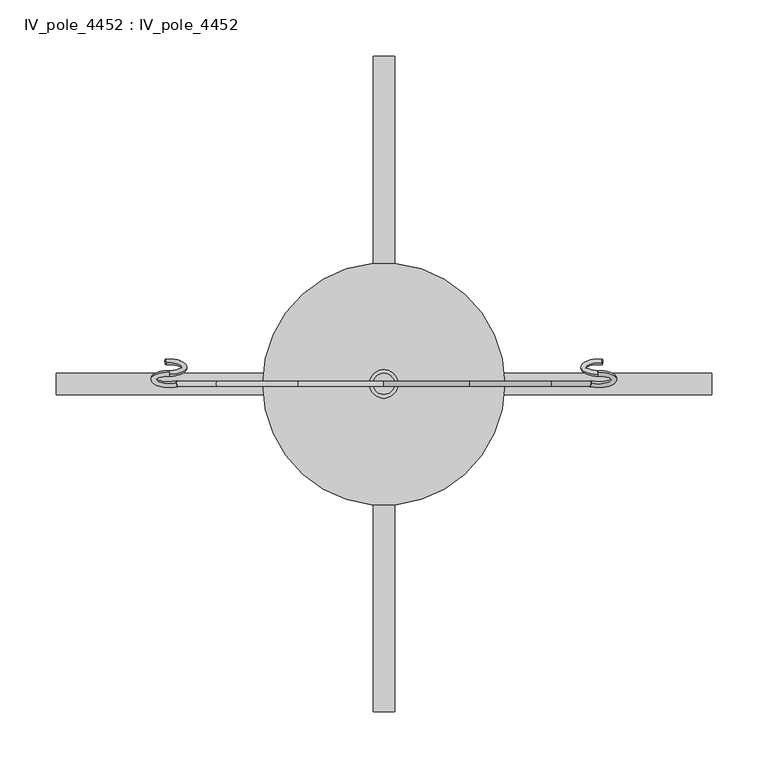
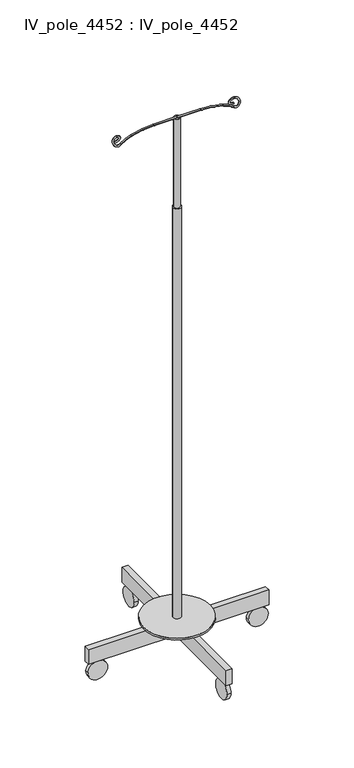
"""IFC4 building model written with IfcOpenShell, lengths in millimetres: proxy geometry, IV_pole_4452 : IV_pole_4452."""

import ifcopenshell
import ifcopenshell.guid

model = None  # the IFC model being written
_history = None  # IfcOwnerHistory: only IFC2X3 demands one
_inside = {}  # id of a spatial element -> (the spatial element, [elements in it])
_under = {}  # id of a project, library or spatial element -> (it, [spatial elements below it])
_declared = {}  # id of a project -> (the project, [libraries it declares])
_typed = {}  # id of a type object -> (the type object, [elements of that type])
_made_of = {}  # id of a material, layer set ... -> (it, [elements and type objects made of it])


def new_model(schema):
    """Start an empty IFC model of exactly this schema.

    Asked for "IFC4X3", IfcOpenShell would pick the latest addendum, in which some entities
    have other attributes; the version numbers below select the first issue.
    IFC2X3 requires an IfcOwnerHistory on every rooted entity: one is made here for all.
    """
    global model, _history
    if schema == "IFC4X3":
        model = ifcopenshell.file(schema_version=(4, 3, 0, 0))
    else:
        model = ifcopenshell.file(schema=schema)
    _inside.clear()
    _under.clear()
    _declared.clear()
    _typed.clear()
    _made_of.clear()
    _history = None
    if model.schema == "IFC2X3":
        org = make("IfcOrganization", Name="unknown")
        user = make(
            "IfcPersonAndOrganization",
            ThePerson=make("IfcPerson", FamilyName="unknown"),
            TheOrganization=org,
        )
        app = make(
            "IfcApplication",
            ApplicationDeveloper=org,
            Version="unknown",
            ApplicationFullName="unknown",
            ApplicationIdentifier="unknown",
        )
        _history = make(
            "IfcOwnerHistory",
            OwningUser=user,
            OwningApplication=app,
            ChangeAction="ADDED",
            CreationDate=0,
        )
    return model


def make(cls, **values):
    """One entity of the class cls with the attributes given. An attribute that is None is left unset."""
    return model.create_entity(
        cls, **{name: value for name, value in values.items() if value is not None}
    )


def rooted(cls, **values):
    """An entity with a GlobalId (a new one), such as an element, a storey or a relation."""
    return make(cls, GlobalId=ifcopenshell.guid.new(), OwnerHistory=_history, **values)


def si_unit(unit_type, name, prefix=None):
    """IfcSIUnit, for example si_unit("LENGTHUNIT", "METRE", prefix="MILLI")."""
    return make("IfcSIUnit", UnitType=unit_type, Prefix=prefix, Name=name)


def assignment(units):
    """IfcUnitAssignment: the units of a project."""
    return None if units is None else make("IfcUnitAssignment", Units=units)


def point(xyz):
    """IfcCartesianPoint."""
    return None if xyz is None else make("IfcCartesianPoint", Coordinates=xyz)


def direction(xyz):
    """IfcDirection."""
    return None if xyz is None else make("IfcDirection", DirectionRatios=xyz)


def frame(location, z_axis=None, x_axis=None):
    """IfcAxis2Placement3D, a coordinate frame: its origin and axes. An axis left out is left unset."""
    return make(
        "IfcAxis2Placement3D",
        Location=point(location),
        Axis=direction(z_axis),
        RefDirection=direction(x_axis),
    )


def frame_2d(location, x_axis=None):
    """IfcAxis2Placement2D, a coordinate frame in the plane: its origin and x axis."""
    return make(
        "IfcAxis2Placement2D", Location=point(location), RefDirection=direction(x_axis)
    )


def origin():
    """The frame at (0, 0, 0) with its axes left unset."""
    return frame((0.0, 0.0, 0.0))


def origin_2d():
    """The frame at (0, 0) in the plane with its x axis left unset."""
    return frame_2d((0.0, 0.0))


def place(relative_to, where):
    """IfcLocalPlacement: puts the frame where relative to a parent placement (None: the world)."""
    return make(
        "IfcLocalPlacement", PlacementRelTo=relative_to, RelativePlacement=where
    )


def context(
    kind, dimensions, precision=None, world=None, true_north=None, identifier=None
):
    """IfcGeometricRepresentationContext, for example the 3D "Model" context."""
    return make(
        "IfcGeometricRepresentationContext",
        ContextIdentifier=identifier,
        ContextType=kind,
        CoordinateSpaceDimension=dimensions,
        Precision=precision,
        WorldCoordinateSystem=world,
        TrueNorth=true_north,
    )


def project(units=None, contexts=None):
    """IfcProject with its units and contexts."""
    return rooted(
        "IfcProject",
        Name="project",
        RepresentationContexts=contexts,
        UnitsInContext=assignment(units),
    )


def spatial(cls, under=None, at=None, **own):
    """A site, building, storey or space (cls), placed at a placement, below another one or the project."""
    s = rooted(cls, ObjectPlacement=at, **own)
    if under is not None:
        _under.setdefault(under.id(), (under, []))[1].append(s)
    return s


def polyline(points):
    """IfcPolyline through the points."""
    return make("IfcPolyline", Points=[point(p) for p in points])


def circle_curve(where, radius):
    """IfcCircle in the frame where."""
    return make("IfcCircle", Position=where, Radius=radius)


def ellipse_curve(where, semi_axis1, semi_axis2):
    """IfcEllipse in the frame where."""
    return make(
        "IfcEllipse", Position=where, SemiAxis1=semi_axis1, SemiAxis2=semi_axis2
    )


def trimmed(basis, trim1, trim2, sense, master):
    """IfcTrimmedCurve: the piece of a basis curve between two trims."""
    return make(
        "IfcTrimmedCurve",
        BasisCurve=basis,
        Trim1=trim1,
        Trim2=trim2,
        SenseAgreement=sense,
        MasterRepresentation=master,
    )


def segment(curve, same_sense, transition):
    """IfcCompositeCurveSegment."""
    return make(
        "IfcCompositeCurveSegment",
        Transition=transition,
        SameSense=same_sense,
        ParentCurve=curve,
    )


def composite_curve(segments, self_intersect=None):
    """IfcCompositeCurve: segments joined end to end."""
    return make("IfcCompositeCurve", Segments=segments, SelfIntersect=self_intersect)


def outline(outer, holes=None, kind="AREA"):
    """IfcArbitraryClosedProfileDef: a profile drawn as a closed curve; with holes, ...WithVoids."""
    if holes is None:
        return make("IfcArbitraryClosedProfileDef", ProfileType=kind, OuterCurve=outer)
    return make(
        "IfcArbitraryProfileDefWithVoids",
        ProfileType=kind,
        OuterCurve=outer,
        InnerCurves=holes,
    )


def extrude(swept, where, along, depth):
    """IfcExtrudedAreaSolid: the profile swept, set in the frame where, extruded along a direction by depth."""
    return make(
        "IfcExtrudedAreaSolid",
        SweptArea=swept,
        Position=where,
        ExtrudedDirection=direction(along),
        Depth=depth,
    )


def shape(context_of_items, identifier, shape_type, items):
    """IfcShapeRepresentation: the items that make up one representation, for example the "Body"."""
    return make(
        "IfcShapeRepresentation",
        ContextOfItems=context_of_items,
        RepresentationIdentifier=identifier,
        RepresentationType=shape_type,
        Items=items,
    )


def source(mapping_origin, context_of_items, identifier, shape_type, items):
    """IfcRepresentationMap: a shape defined once, which mapped items show again and again."""
    return make(
        "IfcRepresentationMap",
        MappingOrigin=mapping_origin,
        MappedRepresentation=shape(context_of_items, identifier, shape_type, items),
    )


def transform(
    local_origin,
    x_axis=None,
    y_axis=None,
    z_axis=None,
    scale=None,
    scale2=None,
    scale3=None,
    uniform=True,
):
    """IfcCartesianTransformationOperator3D, or its non-uniform kind. x_axis, y_axis, z_axis: its Axis1, 2, 3."""
    if uniform:
        return make(
            "IfcCartesianTransformationOperator3D",
            Axis1=direction(x_axis),
            Axis2=direction(y_axis),
            LocalOrigin=point(local_origin),
            Scale=scale,
            Axis3=direction(z_axis),
        )
    return make(
        "IfcCartesianTransformationOperator3DnonUniform",
        Axis1=direction(x_axis),
        Axis2=direction(y_axis),
        LocalOrigin=point(local_origin),
        Scale=scale,
        Axis3=direction(z_axis),
        Scale2=scale2,
        Scale3=scale3,
    )


def mapped(mapping_source, mapping_target):
    """IfcMappedItem: shows the shape of a source again, moved by a transform."""
    return make(
        "IfcMappedItem", MappingSource=mapping_source, MappingTarget=mapping_target
    )


def made_of(thing, what):
    """Note that an element or type object is made of a material, layer set ...; save() writes the relation."""
    if what is not None:
        _made_of.setdefault(what.id(), (what, []))[1].append(thing)
    return thing


def element(
    cls,
    number,
    at=None,
    inside=None,
    cuts=None,
    type_object=None,
    material=None,
    context=None,
    identifier="Body",
    shape_type=None,
    held_by="IfcProductDefinitionShape",
    body=None,
    shapes=None,
    **own,
):
    """One element of the class cls, such as IfcWall. Its Tag is "e" and its number.

    at: its placement. inside: the storey or other place that contains it. cuts: it is an
    opening in that element (IfcRelVoidsElement). A single representation is given by context,
    identifier, shape_type and body (its items); several are given by shapes. held_by: the class
    of the entity that holds the representations. save() writes the other relations.
    """
    e = rooted(cls, Tag="e%d" % number, ObjectPlacement=at, **own)
    if body is not None:
        shapes = [shape(context, identifier, shape_type, body)]
    if shapes is not None:
        e.Representation = make(held_by, Representations=shapes)
    if inside is not None:
        _inside.setdefault(inside.id(), (inside, []))[1].append(e)
    if cuts is not None:
        rooted(
            "IfcRelVoidsElement", RelatingBuildingElement=cuts, RelatedOpeningElement=e
        )
    if type_object is not None:
        _typed.setdefault(type_object.id(), (type_object, []))[1].append(e)
    return made_of(e, material)


def aggregate(whole, parts):
    """IfcRelAggregates: a whole, such as a stair, and the parts it consists of."""
    return rooted("IfcRelAggregates", RelatingObject=whole, RelatedObjects=parts)


def save(model, path):
    """Write the relations noted so far, then the file.

    IfcRelAggregates (storeys below a building ...), IfcRelContainedInSpatialStructure (elements
    in a storey), IfcRelDefinesByType, IfcRelAssociatesMaterial and IfcRelDeclares: one each for
    every whole, place, type object, material and project.
    """
    for whole, parts in _under.values():
        aggregate(whole, parts)
    for where, things in _inside.values():
        rooted(
            "IfcRelContainedInSpatialStructure",
            RelatedElements=things,
            RelatingStructure=where,
        )
    for kind, things in _typed.values():
        rooted("IfcRelDefinesByType", RelatedObjects=things, RelatingType=kind)
    for what, things in _made_of.values():
        rooted("IfcRelAssociatesMaterial", RelatedObjects=things, RelatingMaterial=what)
    for by, libraries in _declared.values():
        rooted("IfcRelDeclares", RelatingContext=by, RelatedDefinitions=libraries)
    model.write(path)


def plane_surface(at):
    """IfcPlane: the flat surface through the origin of the frame at, square to its z axis."""
    return make("IfcPlane", Position=at)


def cylinder_surface(at, radius):
    """IfcCylindricalSurface: all points at the distance radius from the z axis of the frame at."""
    return make("IfcCylindricalSurface", Position=at, Radius=radius)


def revolved_surface(curve, axis_point, axis_direction):
    """IfcSurfaceOfRevolution: the curve turned about the line through axis_point along axis_direction."""
    return make(
        "IfcSurfaceOfRevolution",
        SweptCurve=make("IfcArbitraryOpenProfileDef", ProfileType="CURVE", Curve=curve),
        AxisPosition=make("IfcAxis1Placement", Location=point(axis_point), Axis=direction(axis_direction)),
    )


def advanced_brep(points, edges, surfaces, faces):
    """IfcAdvancedBrep: a solid bounded by faces that lie on surfaces and meet in shared edges.

    An edge is (start, end): straight between two places in points (the first is 0);
    or (start, end, curve); or (start, end, curve, False) where it runs against its curve.
    A face is (place in surfaces, loops), or (place, loops, False) where it looks against
    its surface's normal. A loop lists edges by number (the first is 1), with a minus sign
    where the edge is run from its end to its start. The first loop is the outer one.
    """
    corners = [point(p) for p in points]
    vertices = [make("IfcVertexPoint", VertexGeometry=c) for c in corners]
    made = []
    for start, end, *more in edges:
        made.append(
            make(
                "IfcEdgeCurve",
                EdgeStart=vertices[start],
                EdgeEnd=vertices[end],
                EdgeGeometry=more[0] if more else make("IfcPolyline", Points=[corners[start], corners[end]]),
                SameSense=more[1] if len(more) > 1 else True,
            )
        )
    hull = []
    for where, loops, *sense in faces:
        bounds = []
        for j, loop in enumerate(loops):
            ring = [make("IfcOrientedEdge", EdgeElement=made[abs(k) - 1], Orientation=k > 0) for k in loop]
            bounds.append(
                make(
                    "IfcFaceOuterBound" if j == 0 else "IfcFaceBound",
                    Bound=make("IfcEdgeLoop", EdgeList=ring),
                    Orientation=True,
                )
            )
        hull.append(make("IfcAdvancedFace", Bounds=bounds, FaceSurface=surfaces[where], SameSense=sense[0] if sense else True))
    return make("IfcAdvancedBrep", Outer=make("IfcClosedShell", CfsFaces=hull))


def iv_pole_4452_iv_pole_4452_920e618b(model_context):
    return source(origin(), model_context, "Body", "SolidModel", [
        advanced_brep(
        [(190.9347507, 10.2093536, 1821.1070053), (190.6012044, 8.4296705, 1825.5118755), (194.088964, 18.6167968, 1800.297853), (195.0778381, 20.3619785, 1795.9783767)],
        [
            (0, 1, circle_curve(frame((190.7679775, 9.319512, 1823.3094404), z_axis=(0.9975444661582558, -0.02623593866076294, 0.06493622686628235), x_axis=(-0.07003597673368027, -0.37368673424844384, 0.9249071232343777)), 2.38125)),
            (1, 0, circle_curve(frame((190.7679775, 9.319512, 1823.3094404), z_axis=(0.9975444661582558, -0.02623593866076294, 0.06493622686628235), x_axis=(-0.07003597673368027, -0.37368673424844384, 0.9249071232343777)), 2.38125)),
            (2, 3, circle_curve(frame((194.5834011, 19.4893877, 1798.1381148), z_axis=(0.9782058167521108, -0.07778242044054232, 0.19251824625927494), x_axis=(0.2076376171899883, 0.36644234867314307, -0.9069766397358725)), 2.38125)),
            (3, 2, circle_curve(frame((194.5834011, 19.4893877, 1798.1381148), z_axis=(0.9782058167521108, -0.07778242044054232, 0.19251824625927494), x_axis=(0.2076376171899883, 0.36644234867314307, -0.9069766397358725)), 2.38125)),
            (3, 1, circle_curve(frame((191.7303194, 14.4542212, 1810.6005891), z_axis=(0.0, 0.9271838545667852, 0.3746065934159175), x_axis=(-0.07003597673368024, -0.373686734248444, 0.9249071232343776)), 16.1219283)),
            (0, 2, circle_curve(frame((191.7303194, 14.4542212, 1810.6005891), z_axis=(0.0, -0.9271838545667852, -0.3746065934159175), x_axis=(-0.07003597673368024, -0.373686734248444, 0.9249071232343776)), 11.3594283)),
        ],
        [
            plane_surface(frame((190.7679775, 9.319512, 1823.3094404), z_axis=(0.9975444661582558, -0.02623593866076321, 0.06493622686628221), x_axis=(0.0, -0.9271838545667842, -0.37460659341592))),
            plane_surface(frame((194.5834011, 19.4893877, 1798.1381148), z_axis=(0.9782058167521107, -0.07778242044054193, 0.19251824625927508), x_axis=(0.0, -0.9271838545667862, -0.37460659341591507))),
            revolved_surface(trimmed(ellipse_curve(frame((190.7679775, 9.319512, 1823.3094404), z_axis=(0.9975444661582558, -0.02623593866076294, 0.06493622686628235), x_axis=(-0.07003597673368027, -0.37368673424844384, 0.9249071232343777)), 2.38125, 2.38125), [point((190.9347507, 10.2093536, 1821.1070053))], [point((190.6012044, 8.4296705, 1825.5118755))], True, "CARTESIAN"), (191.7303194, 14.4542212, 1810.6005891), (0.0, -0.9271838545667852, -0.3746065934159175)),
            revolved_surface(trimmed(ellipse_curve(frame((190.7679775, 9.319512, 1823.3094404), z_axis=(0.9975444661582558, -0.02623593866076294, 0.06493622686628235), x_axis=(-0.07003597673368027, -0.37368673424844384, 0.9249071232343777)), 2.38125, 2.38125), [point((190.6012044, 8.4296705, 1825.5118755))], [point((190.9347507, 10.2093536, 1821.1070053))], True, "CARTESIAN"), (191.7303194, 14.4542212, 1810.6005891), (0.0, -0.9271838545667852, -0.3746065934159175)),
        ],
        [
            (0, [[1, 2]]),
            (1, [[3, 4]]),
            (2, [[5, -1, 6, -4]]),
            (3, [[-6, -2, -5, -3]]),
        ],
    ),
        advanced_brep(
        [(184.9485092, 1.0140853, 1802.7073737), (182.0339267, -0.396875, 1799.2151243), (190.8932431, 8.4215947, 1821.0416028), (190.5387861, 10.2007105, 1825.4450689)],
        [
            (0, 1, circle_curve(frame((183.491218, 0.3086052, 1800.961249), z_axis=(-0.7908687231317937, 0.229253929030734, 0.5674233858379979), x_axis=(-0.6119858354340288, -0.2962646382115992, -0.7332807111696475)), 2.38125)),
            (1, 0, circle_curve(frame((183.491218, 0.3086052, 1800.961249), z_axis=(-0.7908687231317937, 0.229253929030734, 0.5674233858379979), x_axis=(-0.6119858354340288, -0.2962646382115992, -0.7332807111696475)), 2.38125)),
            (2, 3, circle_curve(frame((190.7160146, 9.3111526, 1823.2433358), z_axis=(-0.997226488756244, -0.027880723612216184, -0.069007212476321), x_axis=(-0.07442667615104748, 0.37356761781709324, 0.9246122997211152)), 2.38125)),
            (3, 2, circle_curve(frame((190.7160146, 9.3111526, 1823.2433358), z_axis=(-0.997226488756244, -0.027880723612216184, -0.069007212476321), x_axis=(-0.07442667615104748, 0.37356761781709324, 0.9246122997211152)), 2.38125)),
            (3, 1, circle_curve(frame((191.7163094, 4.2904028, 1810.8165438), z_axis=(0.0, 0.9271838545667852, -0.37460659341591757), x_axis=(-0.6119858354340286, -0.2962646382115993, -0.7332807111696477)), 15.8212529)),
            (0, 2, circle_curve(frame((191.7163094, 4.2904028, 1810.8165438), z_axis=(0.0, -0.9271838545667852, 0.37460659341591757), x_axis=(-0.6119858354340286, -0.2962646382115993, -0.7332807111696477)), 11.0587529)),
        ],
        [
            plane_surface(frame((183.491218, 0.1249649, 1801.0354445), z_axis=(-0.790868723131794, 0.2292539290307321, 0.5674233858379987), x_axis=(0.0, -0.9271838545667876, 0.37460659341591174))),
            plane_surface(frame((190.7160146, 9.1275123, 1823.3175313), z_axis=(-0.9972264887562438, -0.027880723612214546, -0.06900721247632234), x_axis=(0.0, -0.9271838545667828, 0.37460659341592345))),
            revolved_surface(trimmed(ellipse_curve(frame((183.491218, 0.3086052, 1800.961249), z_axis=(-0.7908687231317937, 0.229253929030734, 0.5674233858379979), x_axis=(-0.6119858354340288, -0.2962646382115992, -0.7332807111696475)), 2.38125, 2.38125), [point((184.9485092, 1.0140853, 1802.7073737))], [point((182.0339267, -0.396875, 1799.2151243))], True, "CARTESIAN"), (191.7163094, 4.1067625, 1810.8907393), (0.0, -0.9271838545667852, 0.37460659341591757)),
            revolved_surface(trimmed(ellipse_curve(frame((183.491218, 0.3086052, 1800.961249), z_axis=(-0.7908687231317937, 0.229253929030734, 0.5674233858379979), x_axis=(-0.6119858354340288, -0.2962646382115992, -0.7332807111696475)), 2.38125, 2.38125), [point((182.0339267, -0.396875, 1799.2151243))], [point((184.9485092, 1.0140853, 1802.7073737))], True, "CARTESIAN"), (191.7163094, 4.1067625, 1810.8907393), (0.0, -0.9271838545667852, 0.37460659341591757)),
        ],
        [
            (0, [[1, 2]]),
            (1, [[3, 4]]),
            (2, [[5, -1, 6, -4]]),
            (3, [[-6, -2, -5, -3]]),
        ],
    ),
        advanced_brep(
        [(0.0, -2.38125, 1828.8), (0.0, 2.38125, 1828.8), (76.2, -2.38125, 1828.8), (76.2, 2.38125, 1828.8), (148.5209113, 2.38125, 1818.3935308), (148.5209113, -2.38125, 1818.3935308), (183.8556818, -2.38125, 1800.7261455), (183.8556818, 2.38125, 1800.7261455)],
        [
            (0, 1, circle_curve(frame((0.0, 0.0, 1828.8), z_axis=(-1.0, 0.0, 0.0), x_axis=(0.0, 1.0, 0.0)), 2.38125)),
            (1, 0, circle_curve(frame((0.0, 0.0, 1828.8), z_axis=(-1.0, 0.0, 0.0), x_axis=(0.0, 1.0, 0.0)), 2.38125)),
            (0, 2),
            (2, 3, circle_curve(frame((76.2, 0.0, 1828.8), z_axis=(-1.0, 0.0, 0.0), x_axis=(0.0, 1.0, 0.0)), 2.38125)),
            (3, 1),
            (3, 2, circle_curve(frame((76.2, 0.0, 1828.8), z_axis=(-1.0, 0.0, 0.0), x_axis=(0.0, 1.0, 0.0)), 2.38125)),
            (4, 3, circle_curve(frame((76.2, 2.38125, 1572.2956706), z_axis=(0.0, -1.0, 0.0), x_axis=(0.0, 0.0, 1.0)), 256.5043294)),
            (2, 5, circle_curve(frame((76.2, -2.38125, 1572.2956706), z_axis=(0.0, 1.0, 0.0), x_axis=(0.0, 0.0, 1.0)), 256.5043294)),
            (5, 4, circle_curve(frame((148.5209113, 0.0, 1818.3935308), z_axis=(-0.9594296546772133, 0.0, 0.281948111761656), x_axis=(0.0, 1.0, 0.0)), 2.38125)),
            (4, 5, circle_curve(frame((148.5209113, 0.0, 1818.3935308), z_axis=(-0.9594296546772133, 0.0, 0.281948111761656), x_axis=(0.0, 1.0, 0.0)), 2.38125)),
            (6, 7, circle_curve(frame((183.8556818, 0.0, 1800.7261455), z_axis=(0.8012162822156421, 0.0, -0.5983748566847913), x_axis=(0.0, 1.0, 0.0)), 2.38125)),
            (7, 6, circle_curve(frame((183.8556818, 0.0, 1800.7261455), z_axis=(0.8012162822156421, 0.0, -0.5983748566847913), x_axis=(0.0, 1.0, 0.0)), 2.38125)),
            (7, 4, circle_curve(frame((117.036304, 2.38125, 1711.255853), z_axis=(0.0, -1.0, 0.0), x_axis=(0.28194811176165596, 0.0, 0.9594296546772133)), 111.6680908)),
            (5, 6, circle_curve(frame((117.036304, -2.38125, 1711.255853), z_axis=(0.0, 1.0, 0.0), x_axis=(0.28194811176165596, 0.0, 0.9594296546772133)), 111.6680908)),
        ],
        [
            plane_surface(frame((0.0, 0.0, 1828.8), z_axis=(-1.0, 0.0, 0.0), x_axis=(0.0, -1.0, 0.0))),
            cylinder_surface(frame((0.0, 0.0, 1828.8), z_axis=(-1.0, 0.0, 0.0), x_axis=(0.0, 1.0, 0.0)), 2.38125),
            revolved_surface(trimmed(ellipse_curve(frame((76.2, 0.0, 1828.8), z_axis=(-1.0, 0.0, 0.0), x_axis=(0.0, 1.0, 0.0)), 2.38125, 2.38125), [point((76.2, -2.38125, 1828.8))], [point((76.2, 2.38125, 1828.8))], True, "CARTESIAN"), (76.2, 0.0, 1572.2956706), (0.0, 1.0, 0.0)),
            revolved_surface(trimmed(ellipse_curve(frame((76.2, 0.0, 1828.8), z_axis=(-1.0, 0.0, 0.0), x_axis=(0.0, 1.0, 0.0)), 2.38125, 2.38125), [point((76.2, 2.38125, 1828.8))], [point((76.2, -2.38125, 1828.8))], True, "CARTESIAN"), (76.2, 0.0, 1572.2956706), (0.0, 1.0, 0.0)),
            plane_surface(frame((183.8556818, 0.0, 1800.7261455), z_axis=(0.8012162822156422, 0.0, -0.5983748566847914), x_axis=(0.0, -1.0, 0.0))),
            revolved_surface(trimmed(ellipse_curve(frame((148.5209113, 0.0, 1818.3935308), z_axis=(-0.9594296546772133, 0.0, 0.281948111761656), x_axis=(0.0, 1.0, 0.0)), 2.38125, 2.38125), [point((148.5209113, -2.38125, 1818.3935308))], [point((148.5209113, 2.38125, 1818.3935308))], True, "CARTESIAN"), (117.036304, 0.0, 1711.255853), (0.0, 1.0, 0.0)),
            revolved_surface(trimmed(ellipse_curve(frame((148.5209113, 0.0, 1818.3935308), z_axis=(-0.9594296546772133, 0.0, 0.281948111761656), x_axis=(0.0, 1.0, 0.0)), 2.38125, 2.38125), [point((148.5209113, 2.38125, 1818.3935308))], [point((148.5209113, -2.38125, 1818.3935308))], True, "CARTESIAN"), (117.036304, 0.0, 1711.255853), (0.0, 1.0, 0.0)),
        ],
        [
            (0, [[1, 2]]),
            (1, [[-1, 3, 4, 5]]),
            (1, [[-2, -5, 6, -3]]),
            (2, [[7, -4, 8, 9]]),
            (3, [[-8, -6, -7, 10]]),
            (4, [[11, 12]]),
            (5, [[13, -9, 14, -12]]),
            (6, [[-14, -10, -13, -11]]),
        ],
    ),
        advanced_brep(
        [(-190.9347507, 10.2093536, 1821.1070053), (-190.6012044, 8.4296705, 1825.5118755), (-194.088964, 18.6167968, 1800.297853), (-195.0778381, 20.3619785, 1795.9783767)],
        [
            (0, 1, circle_curve(frame((-190.7679775, 9.319512, 1823.3094404), z_axis=(-0.9975444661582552, -0.02623593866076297, 0.06493622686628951), x_axis=(0.07003597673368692, -0.37368673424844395, 0.9249071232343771)), 2.38125)),
            (1, 0, circle_curve(frame((-190.7679775, 9.319512, 1823.3094404), z_axis=(-0.9975444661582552, -0.02623593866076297, 0.06493622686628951), x_axis=(0.07003597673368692, -0.37368673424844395, 0.9249071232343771)), 2.38125)),
            (2, 3, circle_curve(frame((-194.5834011, 19.4893877, 1798.1381148), z_axis=(-0.9782058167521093, -0.07778242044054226, 0.19251824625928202), x_axis=(-0.20763761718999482, 0.36644234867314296, -0.9069766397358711)), 2.38125)),
            (3, 2, circle_curve(frame((-194.5834011, 19.4893877, 1798.1381148), z_axis=(-0.9782058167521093, -0.07778242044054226, 0.19251824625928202), x_axis=(-0.20763761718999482, 0.36644234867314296, -0.9069766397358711)), 2.38125)),
            (3, 1, circle_curve(frame((-191.7303194, 14.4542212, 1810.6005891), z_axis=(0.0, -0.9271838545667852, -0.3746065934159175), x_axis=(0.07003597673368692, -0.373686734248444, 0.9249071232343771)), 16.1219283)),
            (0, 2, circle_curve(frame((-191.7303194, 14.4542212, 1810.6005891), z_axis=(0.0, 0.9271838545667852, 0.3746065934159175), x_axis=(0.07003597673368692, -0.373686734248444, 0.9249071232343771)), 11.3594283)),
        ],
        [
            plane_surface(frame((-190.7679775, 9.319512, 1823.3094404), z_axis=(-0.9975444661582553, -0.026235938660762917, 0.06493622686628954), x_axis=(0.0, -0.9271838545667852, -0.3746065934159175))),
            plane_surface(frame((-194.5834011, 19.4893877, 1798.1381148), z_axis=(-0.9782058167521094, -0.07778242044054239, 0.192518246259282), x_axis=(0.0, -0.9271838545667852, -0.3746065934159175))),
            revolved_surface(trimmed(ellipse_curve(frame((-190.7679775, 9.319512, 1823.3094404), z_axis=(-0.9975444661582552, -0.02623593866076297, 0.06493622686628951), x_axis=(0.07003597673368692, -0.37368673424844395, 0.9249071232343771)), 2.38125, 2.38125), [point((-190.9347507, 10.2093536, 1821.1070053))], [point((-190.6012044, 8.4296705, 1825.5118755))], True, "CARTESIAN"), (-191.7303194, 14.4542212, 1810.6005891), (0.0, 0.9271838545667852, 0.3746065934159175)),
            revolved_surface(trimmed(ellipse_curve(frame((-190.7679775, 9.319512, 1823.3094404), z_axis=(-0.9975444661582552, -0.02623593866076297, 0.06493622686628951), x_axis=(0.07003597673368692, -0.37368673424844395, 0.9249071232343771)), 2.38125, 2.38125), [point((-190.6012044, 8.4296705, 1825.5118755))], [point((-190.9347507, 10.2093536, 1821.1070053))], True, "CARTESIAN"), (-191.7303194, 14.4542212, 1810.6005891), (0.0, 0.9271838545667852, 0.3746065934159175)),
        ],
        [
            (0, [[1, 2]]),
            (1, [[3, 4]]),
            (2, [[5, -1, 6, -4]]),
            (3, [[-6, -2, -5, -3]]),
        ],
    ),
        advanced_brep(
        [(-184.9485092, 1.0140853, 1802.7073737), (-182.0339267, -0.396875, 1799.2151243), (-190.8932431, 8.4215947, 1821.0416028), (-190.5387861, 10.2007105, 1825.4450689)],
        [
            (0, 1, circle_curve(frame((-183.491218, 0.3086052, 1800.961249), z_axis=(0.7908687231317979, 0.2292539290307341, 0.5674233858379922), x_axis=(0.6119858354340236, -0.2962646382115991, -0.7332807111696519)), 2.38125)),
            (1, 0, circle_curve(frame((-183.491218, 0.3086052, 1800.961249), z_axis=(0.7908687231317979, 0.2292539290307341, 0.5674233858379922), x_axis=(0.6119858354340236, -0.2962646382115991, -0.7332807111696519)), 2.38125)),
            (2, 3, circle_curve(frame((-190.7160146, 9.3111526, 1823.2433358), z_axis=(0.9972264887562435, -0.02788072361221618, -0.06900721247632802), x_axis=(0.07442667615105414, 0.3735676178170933, 0.9246122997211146)), 2.38125)),
            (3, 2, circle_curve(frame((-190.7160146, 9.3111526, 1823.2433358), z_axis=(0.9972264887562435, -0.02788072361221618, -0.06900721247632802), x_axis=(0.07442667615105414, 0.3735676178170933, 0.9246122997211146)), 2.38125)),
            (3, 1, circle_curve(frame((-191.7163094, 4.2904028, 1810.8165438), z_axis=(0.0, -0.9271838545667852, 0.37460659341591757), x_axis=(0.6119858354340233, -0.2962646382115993, -0.7332807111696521)), 15.8212529)),
            (0, 2, circle_curve(frame((-191.7163094, 4.2904028, 1810.8165438), z_axis=(0.0, 0.9271838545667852, -0.37460659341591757), x_axis=(0.6119858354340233, -0.2962646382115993, -0.7332807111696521)), 11.0587529)),
        ],
        [
            plane_surface(frame((-183.491218, 0.1249649, 1801.0354445), z_axis=(0.7908687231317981, 0.2292539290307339, 0.5674233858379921), x_axis=(0.0, -0.9271838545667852, 0.3746065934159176))),
            plane_surface(frame((-190.7160146, 9.1275123, 1823.3175313), z_axis=(0.9972264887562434, -0.027880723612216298, -0.06900721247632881), x_axis=(0.0, -0.9271838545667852, 0.3746065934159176))),
            revolved_surface(trimmed(ellipse_curve(frame((-183.491218, 0.3086052, 1800.961249), z_axis=(0.7908687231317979, 0.2292539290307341, 0.5674233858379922), x_axis=(0.6119858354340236, -0.2962646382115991, -0.7332807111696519)), 2.38125, 2.38125), [point((-184.9485092, 1.0140853, 1802.7073737))], [point((-182.0339267, -0.396875, 1799.2151243))], True, "CARTESIAN"), (-191.7163094, 4.1067625, 1810.8907393), (0.0, 0.9271838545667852, -0.37460659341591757)),
            revolved_surface(trimmed(ellipse_curve(frame((-183.491218, 0.3086052, 1800.961249), z_axis=(0.7908687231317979, 0.2292539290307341, 0.5674233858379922), x_axis=(0.6119858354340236, -0.2962646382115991, -0.7332807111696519)), 2.38125, 2.38125), [point((-182.0339267, -0.396875, 1799.2151243))], [point((-184.9485092, 1.0140853, 1802.7073737))], True, "CARTESIAN"), (-191.7163094, 4.1067625, 1810.8907393), (0.0, 0.9271838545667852, -0.37460659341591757)),
        ],
        [
            (0, [[1, 2]]),
            (1, [[3, 4]]),
            (2, [[5, -1, 6, -4]]),
            (3, [[-6, -2, -5, -3]]),
        ],
    ),
        advanced_brep(
        [(0.0, -2.38125, 1828.8), (0.0, 2.38125, 1828.8), (-76.2, -2.38125, 1828.8), (-76.2, 2.38125, 1828.8), (-148.5209113, 2.38125, 1818.3935308), (-148.5209113, -2.38125, 1818.3935308), (-183.8556818, -2.38125, 1800.7261455), (-183.8556818, 2.38125, 1800.7261455)],
        [
            (0, 1, circle_curve(frame((0.0, 0.0, 1828.8), z_axis=(1.0, 0.0, 0.0), x_axis=(0.0, 1.0, 0.0)), 2.38125)),
            (1, 0, circle_curve(frame((0.0, 0.0, 1828.8), z_axis=(1.0, 0.0, 0.0), x_axis=(0.0, 1.0, 0.0)), 2.38125)),
            (0, 2),
            (2, 3, circle_curve(frame((-76.2, 0.0, 1828.8), z_axis=(1.0, 0.0, 0.0), x_axis=(0.0, 1.0, 0.0)), 2.38125)),
            (3, 1),
            (3, 2, circle_curve(frame((-76.2, 0.0, 1828.8), z_axis=(1.0, 0.0, 0.0), x_axis=(0.0, 1.0, 0.0)), 2.38125)),
            (4, 3, circle_curve(frame((-76.2, 2.38125, 1572.2956706), z_axis=(0.0, 1.0, 0.0), x_axis=(0.0, 0.0, 1.0)), 256.5043294)),
            (2, 5, circle_curve(frame((-76.2, -2.38125, 1572.2956706), z_axis=(0.0, -1.0, 0.0), x_axis=(0.0, 0.0, 1.0)), 256.5043294)),
            (5, 4, circle_curve(frame((-148.5209113, 0.0, 1818.3935308), z_axis=(0.9594296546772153, 0.0, 0.281948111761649), x_axis=(0.0, 1.0, 0.0)), 2.38125)),
            (4, 5, circle_curve(frame((-148.5209113, 0.0, 1818.3935308), z_axis=(0.9594296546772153, 0.0, 0.281948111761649), x_axis=(0.0, 1.0, 0.0)), 2.38125)),
            (6, 7, circle_curve(frame((-183.8556818, 0.0, 1800.7261455), z_axis=(-0.8012162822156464, 0.0, -0.5983748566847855), x_axis=(0.0, 1.0, 0.0)), 2.38125)),
            (7, 6, circle_curve(frame((-183.8556818, 0.0, 1800.7261455), z_axis=(-0.8012162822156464, 0.0, -0.5983748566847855), x_axis=(0.0, 1.0, 0.0)), 2.38125)),
            (7, 4, circle_curve(frame((-117.036304, 2.38125, 1711.255853), z_axis=(0.0, 1.0, 0.0), x_axis=(-0.2819481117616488, 0.0, 0.9594296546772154)), 111.6680908)),
            (5, 6, circle_curve(frame((-117.036304, -2.38125, 1711.255853), z_axis=(0.0, -1.0, 0.0), x_axis=(-0.2819481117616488, 0.0, 0.9594296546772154)), 111.6680908)),
        ],
        [
            plane_surface(frame((0.0, 0.0, 1828.8), z_axis=(1.0, 0.0, 0.0), x_axis=(0.0, -1.0, 0.0))),
            cylinder_surface(frame((0.0, 0.0, 1828.8), z_axis=(1.0, 0.0, 0.0), x_axis=(0.0, 1.0, 0.0)), 2.38125),
            revolved_surface(trimmed(ellipse_curve(frame((-76.2, 0.0, 1828.8), z_axis=(1.0, 0.0, 0.0), x_axis=(0.0, 1.0, 0.0)), 2.38125, 2.38125), [point((-76.2, -2.38125, 1828.8))], [point((-76.2, 2.38125, 1828.8))], True, "CARTESIAN"), (-76.2, 0.0, 1572.2956706), (0.0, -1.0, 0.0)),
            revolved_surface(trimmed(ellipse_curve(frame((-76.2, 0.0, 1828.8), z_axis=(1.0, 0.0, 0.0), x_axis=(0.0, 1.0, 0.0)), 2.38125, 2.38125), [point((-76.2, 2.38125, 1828.8))], [point((-76.2, -2.38125, 1828.8))], True, "CARTESIAN"), (-76.2, 0.0, 1572.2956706), (0.0, -1.0, 0.0)),
            plane_surface(frame((-183.8556818, 0.0, 1800.7261455), z_axis=(-0.8012162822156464, 0.0, -0.5983748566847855), x_axis=(0.0, -1.0, 0.0))),
            revolved_surface(trimmed(ellipse_curve(frame((-148.5209113, 0.0, 1818.3935308), z_axis=(0.9594296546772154, 0.0, 0.2819481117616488), x_axis=(0.0, 1.0, 0.0)), 2.38125, 2.38125), [point((-148.5209113, -2.38125, 1818.3935308))], [point((-148.5209113, 2.38125, 1818.3935308))], True, "CARTESIAN"), (-117.036304, 0.0, 1711.255853), (0.0, -1.0, 0.0)),
            revolved_surface(trimmed(ellipse_curve(frame((-148.5209113, 0.0, 1818.3935308), z_axis=(0.9594296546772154, 0.0, 0.2819481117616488), x_axis=(0.0, 1.0, 0.0)), 2.38125, 2.38125), [point((-148.5209113, 2.38125, 1818.3935308))], [point((-148.5209113, -2.38125, 1818.3935308))], True, "CARTESIAN"), (-117.036304, 0.0, 1711.255853), (0.0, -1.0, 0.0)),
        ],
        [
            (0, [[1, 2]]),
            (1, [[-1, 3, 4, 5]]),
            (1, [[-2, -5, 6, -3]]),
            (2, [[7, -4, 8, 9]]),
            (3, [[-8, -6, -7, 10]]),
            (4, [[11, 12]]),
            (5, [[13, -9, 14, -12]]),
            (6, [[-14, -10, -13, -11]]),
        ],
    ),
        extrude(outline(composite_curve([segment(trimmed(circle_curve(origin_2d(), 9.525), [point((-9.525, 0.0))], [point((9.525, 0.0))], False, "CARTESIAN"), True, "CONTINUOUS"), segment(trimmed(circle_curve(origin_2d(), 9.525), [point((9.525, 0.0))], [point((-9.525, 0.0))], False, "CARTESIAN"), True, "CONTINUOUS")], self_intersect=False)), frame((0.0, 0.0, 1524.0), z_axis=(0.0, 0.0, 1.0), x_axis=(1.0, 0.0, 0.0)), (0.0, 0.0, 1.0), 304.8),
        extrude(outline(composite_curve([segment(trimmed(circle_curve(origin_2d(), 12.7), [point((-12.7, 0.0))], [point((12.7, 0.0))], False, "CARTESIAN"), True, "CONTINUOUS"), segment(trimmed(circle_curve(origin_2d(), 12.7), [point((12.7, 0.0))], [point((-12.7, 0.0))], False, "CARTESIAN"), True, "CONTINUOUS")], self_intersect=False)), frame((0.0, 0.0, 120.65), z_axis=(0.0, 0.0, 1.0), x_axis=(1.0, 0.0, 0.0)), (0.0, 0.0, 1.0), 1403.35),
        extrude(outline(composite_curve([segment(trimmed(circle_curve(origin_2d(), 107.95), [point((-107.95, 0.0))], [point((107.95, 0.0))], False, "CARTESIAN"), True, "CONTINUOUS"), segment(trimmed(circle_curve(origin_2d(), 107.95), [point((107.95, 0.0))], [point((-107.95, 0.0))], False, "CARTESIAN"), True, "CONTINUOUS")], self_intersect=False)), frame((0.0, 0.0, 114.3), z_axis=(0.0, 0.0, 1.0), x_axis=(1.0, 0.0, 0.0)), (0.0, 0.0, 1.0), 6.35),
        extrude(outline(composite_curve([segment(trimmed(circle_curve(frame_2d((260.35, 31.75)), 31.75), [point((292.1, 31.75))], [point((228.6, 31.75))], False, "CARTESIAN"), True, "CONTINUOUS"), segment(trimmed(circle_curve(frame_2d((260.35, 31.75)), 31.75), [point((228.6, 31.75))], [point((292.1, 31.75))], False, "CARTESIAN"), True, "CONTINUOUS")], self_intersect=False)), frame((-6.35, 0.0, 0.0), z_axis=(1.0, 0.0, 0.0), x_axis=(0.0, 1.0, 0.0)), (0.0, 0.0, 1.0), 12.7),
        extrude(outline(composite_curve([segment(trimmed(circle_curve(frame_2d((31.75, 260.35)), 31.75), [point((31.75, 292.1))], [point((31.75, 228.6))], False, "CARTESIAN"), True, "CONTINUOUS"), segment(trimmed(circle_curve(frame_2d((31.75, 260.35)), 31.75), [point((31.75, 228.6))], [point((31.75, 292.1))], False, "CARTESIAN"), True, "CONTINUOUS")], self_intersect=False)), frame((0.0, -6.35, 0.0), z_axis=(0.0, 1.0, 0.0), x_axis=(0.0, 0.0, 1.0)), (0.0, 0.0, 1.0), 12.7),
        extrude(outline(composite_curve([segment(trimmed(circle_curve(frame_2d((31.75, -260.35)), 31.75), [point((31.75, -292.1))], [point((31.75, -228.6))], False, "CARTESIAN"), True, "CONTINUOUS"), segment(trimmed(circle_curve(frame_2d((31.75, -260.35)), 31.75), [point((31.75, -228.6))], [point((31.75, -292.1))], False, "CARTESIAN"), True, "CONTINUOUS")], self_intersect=False)), frame((0.0, -6.35, 0.0), z_axis=(0.0, 1.0, 0.0), x_axis=(0.0, 0.0, 1.0)), (0.0, 0.0, 1.0), 12.7),
        extrude(outline(composite_curve([segment(trimmed(circle_curve(frame_2d((-260.35, 31.75)), 31.75), [point((-292.1, 31.75))], [point((-228.6, 31.75))], False, "CARTESIAN"), True, "CONTINUOUS"), segment(trimmed(circle_curve(frame_2d((-260.35, 31.75)), 31.75), [point((-228.6, 31.75))], [point((-292.1, 31.75))], False, "CARTESIAN"), True, "CONTINUOUS")], self_intersect=False)), frame((-6.35, 0.0, 0.0), z_axis=(1.0, 0.0, 0.0), x_axis=(0.0, 1.0, 0.0)), (0.0, 0.0, 1.0), 12.7),
        extrude(outline(polyline([(-292.1, 9.525), (292.1, 9.525), (292.1, -9.525), (-292.1, -9.525), (-292.1, 9.525)])), frame((0.0, 0.0, 63.5), z_axis=(0.0, 0.0, 1.0), x_axis=(1.0, 0.0, 0.0)), (0.0, 0.0, 1.0), 50.8),
        extrude(outline(polyline([(9.525, -292.1), (-9.525, -292.1), (-9.525, 292.1), (9.525, 292.1), (9.525, -292.1)])), frame((0.0, 0.0, 63.5), z_axis=(0.0, 0.0, 1.0), x_axis=(1.0, 0.0, 0.0)), (0.0, 0.0, 1.0), 50.8),
    ])


if __name__ == "__main__":
    model = new_model("IFC4")
    model_context = context("Model", 3, world=origin())
    ifc_project = project(units=[si_unit("LENGTHUNIT", "METRE", prefix="MILLI")], contexts=[model_context])
    site = spatial("IfcSite", under=ifc_project)
    building = spatial("IfcBuilding", under=site)
    placement = place(None, origin())
    iv_pole_4452_iv_pole_4452_shape = iv_pole_4452_iv_pole_4452_920e618b(model_context)
    element("IfcBuildingElementProxy", 1, Name="IV_pole_4452 : IV_pole_4452", ObjectType="IV_pole_4452 : IV_pole_4452", at=placement, inside=building, context=model_context, shape_type="MappedRepresentation", body=[
        mapped(iv_pole_4452_iv_pole_4452_shape, transform((0.0, 0.0, 0.0), x_axis=(1.0, 0.0, 0.0), y_axis=(0.0, 1.0, 0.0), z_axis=(0.0, 0.0, 1.0))),
    ])
    save(model, "model.ifc")
